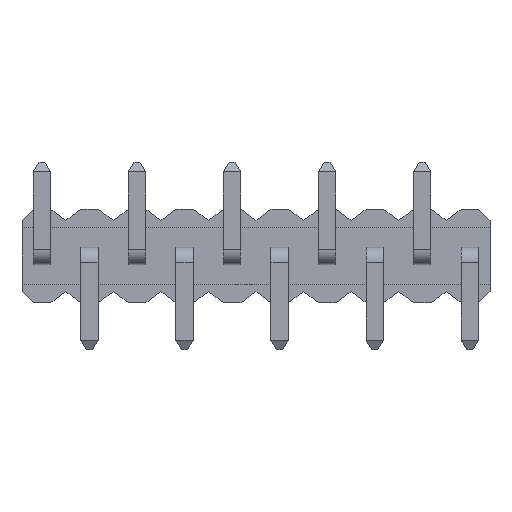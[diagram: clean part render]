
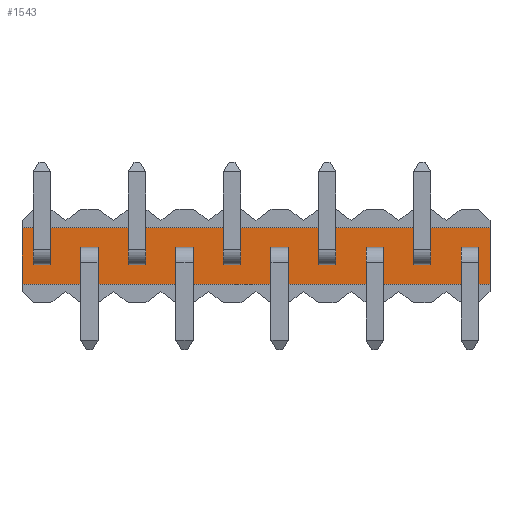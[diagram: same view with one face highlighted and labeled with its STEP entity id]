
A CAD part, front view. The second image highlights one B-rep face of the part: STEP entity #1543.
In plain terms, the highlighted planar face has unit normal (0, -1, 0).
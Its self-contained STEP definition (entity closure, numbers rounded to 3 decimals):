
#439 = PLANE ( 'NONE',  #1560 ) ;
#441 = CARTESIAN_POINT ( 'NONE',  ( 0.1, 0.5, -2. ) ) ;
#445 = FACE_OUTER_BOUND ( 'NONE', #2418, .T. ) ;
#447 = DIRECTION ( 'NONE',  ( 0., 1., 0. ) ) ;
#448 = DIRECTION ( 'NONE',  ( 0., 0., 1. ) ) ;
#523 = CARTESIAN_POINT ( 'NONE',  ( 12.6, 0.5, -0.5 ) ) ;
#525 = CARTESIAN_POINT ( 'NONE',  ( 0.1, 0.5, -0.5 ) ) ;
#532 = CARTESIAN_POINT ( 'NONE',  ( 12.6, 0.5, -2. ) ) ;
#533 = CARTESIAN_POINT ( 'NONE',  ( 0.1, 0.5, -2. ) ) ;
#790 = VECTOR ( 'NONE', #3015, 1000. ) ;
#814 = VECTOR ( 'NONE', #3027, 1000. ) ;
#822 = VECTOR ( 'NONE', #2995, 1000. ) ;
#824 = VECTOR ( 'NONE', #3030, 1000. ) ;
#1438 = EDGE_CURVE ( 'NONE', #1699, #1690, #2985, .T. ) ;
#1445 = EDGE_CURVE ( 'NONE', #1692, #1700, #3013, .T. ) ;
#1449 = EDGE_CURVE ( 'NONE', #1692, #1690, #3025, .T. ) ;
#1450 = EDGE_CURVE ( 'NONE', #1700, #1699, #3028, .T. ) ;
#1543 = ADVANCED_FACE ( 'NONE', ( #445 ), #439, .F. ) ;
#1560 = AXIS2_PLACEMENT_3D ( 'NONE', #441, #447, #448 ) ;
#1690 = VERTEX_POINT ( 'NONE', #523 ) ;
#1692 = VERTEX_POINT ( 'NONE', #525 ) ;
#1699 = VERTEX_POINT ( 'NONE', #532 ) ;
#1700 = VERTEX_POINT ( 'NONE', #533 ) ;
#2303 = ORIENTED_EDGE ( 'NONE', *, *, #1438, .T. ) ;
#2304 = ORIENTED_EDGE ( 'NONE', *, *, #1449, .F. ) ;
#2305 = ORIENTED_EDGE ( 'NONE', *, *, #1445, .T. ) ;
#2306 = ORIENTED_EDGE ( 'NONE', *, *, #1450, .T. ) ;
#2418 = EDGE_LOOP ( 'NONE', ( #2303, #2304, #2305, #2306 ) ) ;
#2985 = LINE ( 'NONE', #2993, #822 ) ;
#2993 = CARTESIAN_POINT ( 'NONE',  ( 12.6, 0.5, -1.25 ) ) ;
#2995 = DIRECTION ( 'NONE',  ( 0., 0., 1. ) ) ;
#3013 = LINE ( 'NONE', #3014, #790 ) ;
#3014 = CARTESIAN_POINT ( 'NONE',  ( 0.1, 0.5, -1.25 ) ) ;
#3015 = DIRECTION ( 'NONE',  ( 0., 0., -1. ) ) ;
#3025 = LINE ( 'NONE', #3026, #814 ) ;
#3026 = CARTESIAN_POINT ( 'NONE',  ( 6.35, 0.5, -0.5 ) ) ;
#3027 = DIRECTION ( 'NONE',  ( 1., 0., 0. ) ) ;
#3028 = LINE ( 'NONE', #3029, #824 ) ;
#3029 = CARTESIAN_POINT ( 'NONE',  ( 6.35, 0.5, -2. ) ) ;
#3030 = DIRECTION ( 'NONE',  ( 1., 0., 0. ) ) ;
